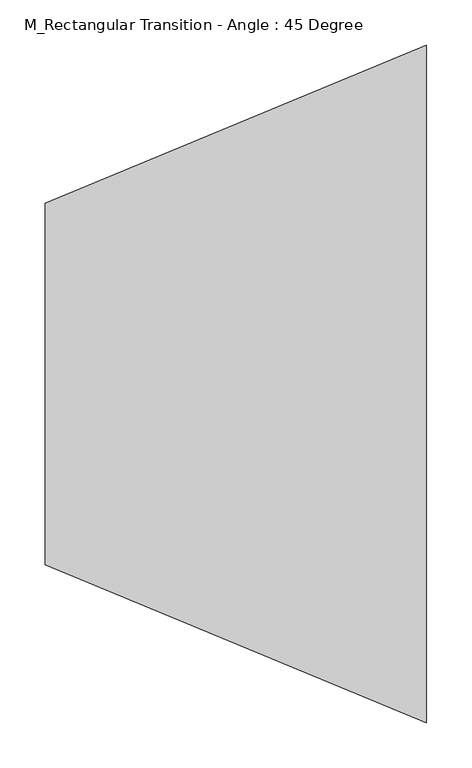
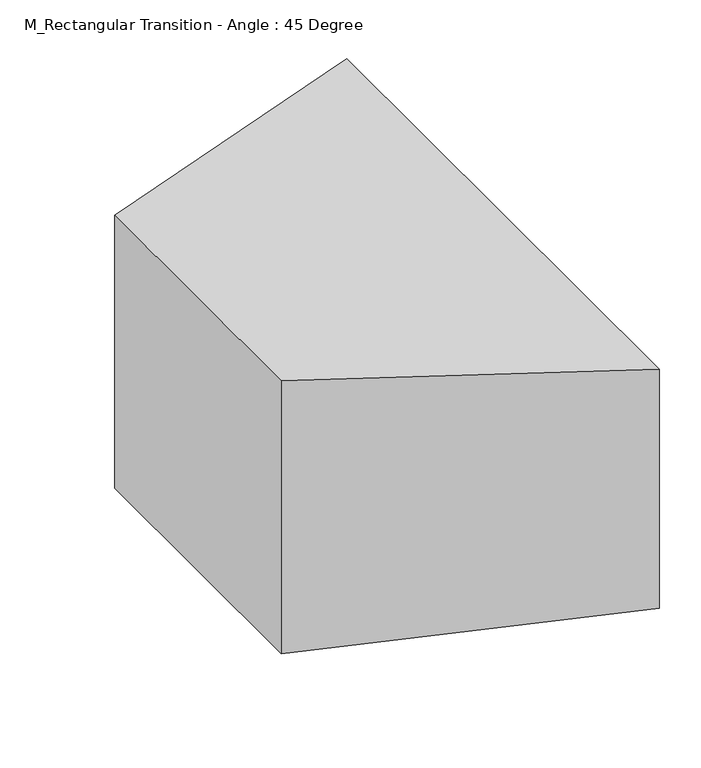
"""IFC4 building model written with IfcOpenShell, lengths in millimetres: duct fitting geometry, M_Rectangular Transition - Angle : 45 Degree."""

from ifc_helpers import new_model, si_unit, origin, place, context, project, spatial, faceted_brep, source, transform, mapped, element, save


def m_rectangular_transition_angle_45_degree_b56fc89d(model_context):
    return source(origin(), model_context, "Body", "Brep", [
        faceted_brep([(422.4873734, -375.0, 175.0), (422.4873734, -375.0, -175.0), (422.4873734, 375.0, -175.0), (422.4873734, 375.0, 175.0), (0.0, -200.0, 200.0), (0.0, 200.0, 200.0), (0.0, 200.0, -200.0), (0.0, -200.0, -200.0)], [[[0, 1, 2, 3]], [[4, 5, 6, 7]], [[4, 7, 1, 0]], [[7, 6, 2, 1]], [[6, 5, 3, 2]], [[5, 4, 0, 3]]]),
        faceted_brep([(422.4873734, -375.0, 175.0), (422.4873734, -375.0, -175.0), (422.4873734, 375.0, -175.0), (422.4873734, 375.0, 175.0), (0.0, -200.0, 200.0), (0.0, 200.0, 200.0), (0.0, 200.0, -200.0), (0.0, -200.0, -200.0)], [[[0, 1, 2, 3]], [[4, 5, 6, 7]], [[4, 7, 1, 0]], [[7, 6, 2, 1]], [[6, 5, 3, 2]], [[5, 4, 0, 3]]]),
        faceted_brep([(422.4873734, -375.0, 175.0), (422.4873734, -375.0, -175.0), (422.4873734, 375.0, -175.0), (422.4873734, 375.0, 175.0), (0.0, -200.0, 200.0), (0.0, 200.0, 200.0), (0.0, 200.0, -200.0), (0.0, -200.0, -200.0)], [[[0, 1, 2, 3]], [[4, 5, 6, 7]], [[4, 7, 1, 0]], [[7, 6, 2, 1]], [[6, 5, 3, 2]], [[5, 4, 0, 3]]]),
    ])


if __name__ == "__main__":
    model = new_model("IFC4")
    model_context = context("Model", 3, world=origin())
    ifc_project = project(units=[si_unit("LENGTHUNIT", "METRE", prefix="MILLI")], contexts=[model_context])
    site = spatial("IfcSite", under=ifc_project)
    building = spatial("IfcBuilding", under=site)
    placement = place(None, origin())
    m_rectangular_transition_angle_45_degree_shape = m_rectangular_transition_angle_45_degree_b56fc89d(model_context)
    element("IfcDuctFitting", 1, ObjectType="M_Rectangular Transition - Angle : 45 Degree", at=placement, inside=building, context=model_context, shape_type="MappedRepresentation", body=[
        mapped(m_rectangular_transition_angle_45_degree_shape, transform((0.0, 0.0, 0.0), x_axis=(1.0, 0.0, 0.0), y_axis=(0.0, 1.0, 0.0), z_axis=(0.0, 0.0, 1.0))),
    ])
    save(model, "model.ifc")
